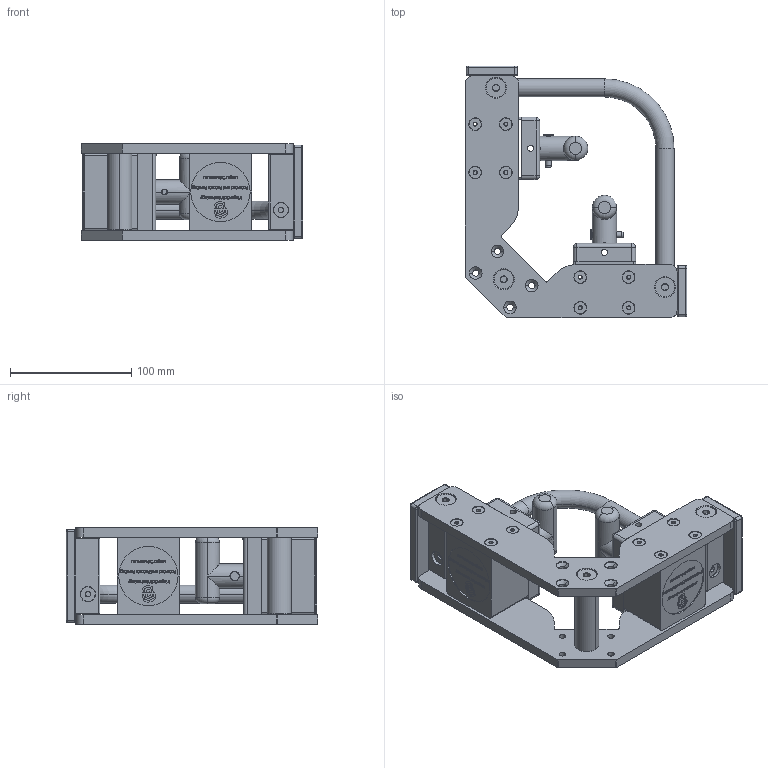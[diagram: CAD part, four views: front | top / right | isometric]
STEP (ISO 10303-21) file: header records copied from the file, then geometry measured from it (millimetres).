
FILE_DESCRIPTION (( 'STEP AP203' ), '1' );
FILE_NAME ('8000961_p.STEP', '2020-03-03T22:03:55', ( '' ), ( '' ), 'SwSTEP 2.0', 'SolidWorks 2018', '' );
FILE_SCHEMA (( 'CONFIG_CONTROL_DESIGN' ));
Products named in the file (1): 8000961_p
Bounding box: 183 x 208 x 80 mm (x, y, z)
Surface area: 163085.1 mm2 (no closed solid volume)
Topology: 0 solids, 105 shells, 1093 faces, 4589 edges, 3497 vertices
Faces by surface type: plane 495, cone 243, cylinder 222, bspline 78, torus 46, sphere 9
Entity records: 60010 total; most frequent: CARTESIAN_POINT 25118, DIRECTION 6398, ORIENTED_EDGE 6365, EDGE_CURVE 4578, VERTEX_POINT 3497, VECTOR 2276, LINE 2276, AXIS2_PLACEMENT_3D 2061
